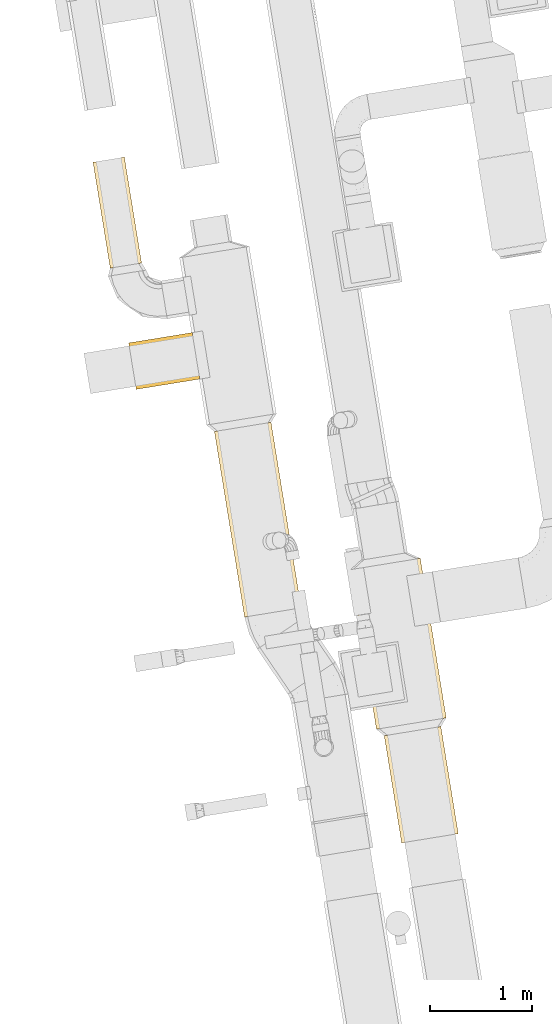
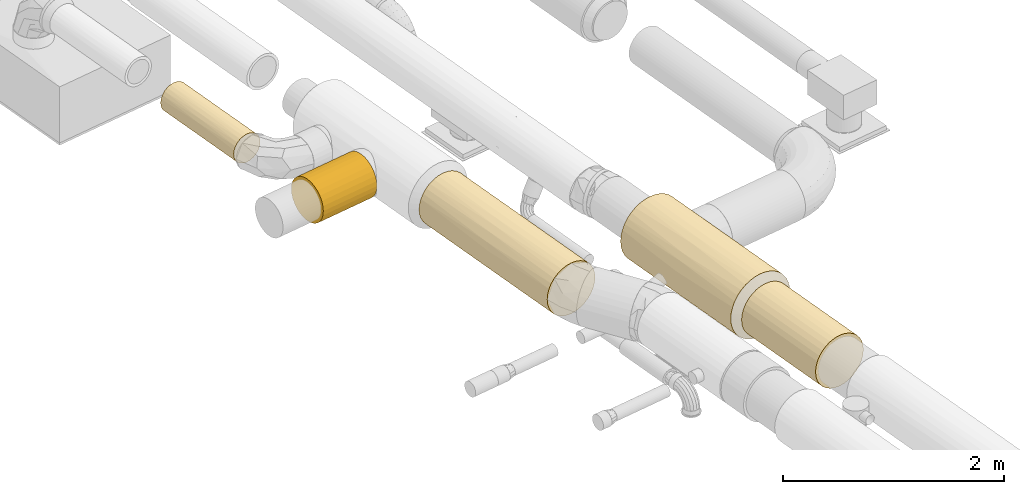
# One storey, part 4 of 39: 5 coverings.
"""IFC2X3 building model written with IfcOpenShell, lengths in millimetres."""

from ifc_helpers import new_model, entity, si_unit, converted_unit, derived_unit, direction, frame, origin, origin_with_axes, place, context, subcontext, project, spatial, faceted_brep, type_object, element, save


model = new_model("IFC2X3")

# Units and contexts
plan_context = context("Plan", 3, precision=1e-05, world=origin_with_axes())
model_context = context("Model", 3, precision=0.01, world=origin(), true_north=direction((6.12323399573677e-17, 1.0)))
body_context = subcontext(model_context, "Body", "Model", "MODEL_VIEW")
ifc_project = project(units=[converted_unit("PLANEANGLEUNIT", "DEGREE", entity("IfcPositiveLengthMeasure", 0.0174532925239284), si_unit("PLANEANGLEUNIT", "RADIAN"), dimensions=[0, 0, 0, 0, 0, 0, 0]), si_unit("AREAUNIT", "SQUARE_METRE"), si_unit("LENGTHUNIT", "METRE", prefix="MILLI"), si_unit("MASSUNIT", "GRAM", prefix="KILO"), si_unit("POWERUNIT", "WATT"), si_unit("PRESSUREUNIT", "PASCAL", prefix="KILO"), si_unit("FORCEUNIT", "NEWTON", prefix="KILO"), si_unit("ELECTRICVOLTAGEUNIT", "VOLT"), si_unit("ELECTRICCURRENTUNIT", "AMPERE"), si_unit("THERMODYNAMICTEMPERATUREUNIT", "DEGREE_CELSIUS"), si_unit("TIMEUNIT", "SECOND"), si_unit("VOLUMEUNIT", "CUBIC_METRE"), derived_unit("LINEARVELOCITYUNIT", [(si_unit("LENGTHUNIT", "METRE"), 1), (si_unit("TIMEUNIT", "SECOND"), -1)]), derived_unit("VOLUMETRICFLOWRATEUNIT", [(si_unit("VOLUMEUNIT", "CUBIC_METRE"), 1), (si_unit("TIMEUNIT", "SECOND"), -1)]), derived_unit("THERMALTRANSMITTANCEUNIT", [(si_unit("POWERUNIT", "WATT"), 1), (si_unit("THERMODYNAMICTEMPERATUREUNIT", "KELVIN"), -1), (si_unit("AREAUNIT", "SQUARE_METRE"), -1)]), derived_unit("SOUNDPRESSUREUNIT", [(si_unit("PRESSUREUNIT", "PASCAL"), 1)])], contexts=[model_context, plan_context])

# Site, building, storey
site_placement = place(None, frame((-0.00071070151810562, 0.00438415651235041, 0.0), z_axis=(0.0, 0.0, 1.0), x_axis=(-0.160236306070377, 0.987078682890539, 0.0)))
site = spatial("IfcSite", under=ifc_project, at=site_placement, Name="Default", CompositionType="ELEMENT")
building_placement = place(site_placement, origin_with_axes())
building = spatial("IfcBuilding", under=site, at=building_placement, CompositionType="ELEMENT")
storey_placement = place(building_placement, frame((0.0, 0.0, 58999.9999999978), z_axis=(0.0, 0.0, 1.0), x_axis=(1.0, 0.0, 0.0)))
storey = spatial("IfcBuildingStorey", under=building, at=storey_placement, Name="Nivå F", CompositionType="ELEMENT", Elevation=58999.9999999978)

# Coverings
covering_type_1 = type_object("IfcCoveringType", Name="Duct Insulation:MuT030", PredefinedType="INSULATION")
covering_1_placement = place(storey_placement, frame((770989.369644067, -503621.603887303, 2848.40426923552), z_axis=(0.0, 0.0, 1.0), x_axis=(1.0, 0.0, 0.0)))
element("IfcCovering", 1, at=covering_1_placement, inside=storey, type_object=covering_type_1, Name="Duct Insulation:MuT030", ObjectType="Duct Insulation:MuT030", PredefinedType="INSULATION", context=body_context, shape_type="Brep", body=[
    faceted_brep([(0.0, 48.7837807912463, 126.035606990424), (0.0, 22.9090031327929, 174.443911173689), (0.0, 6.97539372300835, 226.969982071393), (0.0, 1.59527223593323, 281.595272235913), (0.0, 6.97539372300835, 336.220562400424), (0.0, 22.9090031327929, 388.746633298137), (0.0, 48.7837807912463, 437.154937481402), (0.0, 83.6053735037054, 479.585170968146), (0.0, 126.035606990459, 514.406763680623), (0.0, 174.443911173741, 540.281541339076), (0.0, 226.969982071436, 556.215150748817), (0.0, 281.595272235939, 561.59527223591), (0.0, 336.220562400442, 556.215150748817), (0.0, 388.746633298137, 540.281541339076), (0.0, 437.154937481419, 514.406763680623), (0.0, 479.585170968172, 479.585170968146), (0.0, 514.406763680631, 437.154937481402), (0.0, 540.281541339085, 388.746633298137), (0.0, 556.215150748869, 336.220562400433), (0.0, 561.595272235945, 281.595272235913), (0.0, 556.215150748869, 226.969982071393), (0.0, 540.281541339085, 174.443911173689), (0.0, 514.406763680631, 126.035606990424), (0.0, 479.585170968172, 83.6053735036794), (0.0, 437.154937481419, 48.783780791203), (0.0, 388.746633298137, 22.9090031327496), (0.0, 336.220562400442, 6.97539372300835), (0.0, 281.595272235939, 1.5952722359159), (0.0, 226.969982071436, 6.97539372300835), (0.0, 174.443911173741, 22.9090031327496), (0.0, 126.035606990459, 48.783780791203), (0.0, 83.6053735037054, 83.6053735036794), (1060.0, 22.9090031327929, 388.746633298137), (1060.0, 6.97539372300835, 336.220562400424), (1060.0, 1.59527223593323, 281.595272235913), (1060.0, 6.97539372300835, 226.969982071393), (1060.0, 22.9090031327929, 174.443911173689), (1060.0, 48.7837807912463, 126.035606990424), (1060.0, 83.6053735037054, 83.6053735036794), (1060.0, 126.035606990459, 48.783780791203), (1060.0, 174.443911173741, 22.9090031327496), (1060.0, 226.969982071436, 6.97539372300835), (1060.0, 281.595272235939, 1.5952722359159), (1060.0, 336.220562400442, 6.97539372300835), (1060.0, 388.746633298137, 22.9090031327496), (1060.0, 437.154937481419, 48.783780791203), (1060.0, 479.585170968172, 83.6053735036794), (1060.0, 514.406763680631, 126.035606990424), (1060.0, 540.281541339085, 174.443911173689), (1060.0, 556.215150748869, 226.969982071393), (1060.0, 561.595272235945, 281.595272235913), (1060.0, 556.215150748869, 336.220562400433), (1060.0, 540.281541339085, 388.746633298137), (1060.0, 514.406763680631, 437.154937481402), (1060.0, 479.585170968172, 479.585170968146), (1060.0, 437.154937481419, 514.406763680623), (1060.0, 388.746633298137, 540.281541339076), (1060.0, 336.220562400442, 556.215150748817), (1060.0, 281.595272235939, 561.59527223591), (1060.0, 226.969982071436, 556.215150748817), (1060.0, 174.443911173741, 540.281541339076), (1060.0, 126.035606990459, 514.406763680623), (1060.0, 83.6053735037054, 479.585170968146), (1060.0, 48.7837807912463, 437.154937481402)], [[[0, 1, 2, 3, 4, 5, 6, 7, 8, 9, 10, 11, 12, 13, 14, 15, 16, 17, 18, 19, 20, 21, 22, 23, 24, 25, 26, 27, 28, 29, 30, 31]], [[32, 33, 34, 35, 36, 37, 38, 39, 40, 41, 42, 43, 44, 45, 46, 47, 48, 49, 50, 51, 52, 53, 54, 55, 56, 57, 58, 59, 60, 61, 62, 63]], [[50, 49, 20, 19]], [[49, 48, 21, 20]], [[22, 21, 48, 47]], [[47, 46, 23, 22]], [[25, 24, 45, 44]], [[26, 25, 44, 43]], [[27, 26, 43, 42]], [[46, 45, 24, 23]], [[28, 27, 42, 41]], [[29, 28, 41, 40]], [[30, 29, 40, 39]], [[39, 38, 31, 30]], [[1, 0, 37, 36]], [[2, 1, 36, 35]], [[3, 2, 35, 34]], [[38, 37, 0, 31]], [[4, 3, 34, 33]], [[5, 4, 33, 32]], [[6, 5, 32, 63]], [[63, 62, 7, 6]], [[9, 8, 61, 60]], [[10, 9, 60, 59]], [[11, 10, 59, 58]], [[62, 61, 8, 7]], [[12, 11, 58, 57]], [[13, 12, 57, 56]], [[14, 13, 56, 55]], [[55, 54, 15, 14]], [[17, 16, 53, 52]], [[18, 17, 52, 51]], [[19, 18, 51, 50]], [[54, 53, 16, 15]]]),
])
covering_2_placement = place(storey_placement, frame((772124.369644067, -503686.603887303, 2783.40426923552), z_axis=(0.0, 0.0, 1.0), x_axis=(1.0, 0.0, 0.0)))
element("IfcCovering", 2, at=covering_2_placement, inside=storey, type_object=covering_type_1, Name="Duct Insulation:MuT030", ObjectType="Duct Insulation:MuT030", PredefinedType="INSULATION", context=body_context, shape_type="Brep", body=[
    faceted_brep([(0.0, 22.4013180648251, 228.598322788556), (0.0, 6.83659744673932, 286.686650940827), (0.0, 1.59527223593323, 346.595272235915), (0.0, 6.83659744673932, 406.503893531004), (0.0, 22.4013180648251, 464.592221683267), (0.0, 47.8165079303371, 519.095272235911), (0.0, 82.3099393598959, 568.356997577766), (0.0, 124.833546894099, 610.880605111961), (0.0, 174.095272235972, 645.374036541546), (0.0, 228.598322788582, 670.789226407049), (0.0, 286.686650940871, 686.353947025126), (0.0, 346.595272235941, 691.595272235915), (0.0, 406.503893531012, 686.353947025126), (0.0, 464.592221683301, 670.789226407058), (0.0, 519.095272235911, 645.374036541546), (0.0, 568.356997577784, 610.880605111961), (0.0, 610.880605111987, 568.356997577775), (0.0, 645.374036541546, 519.09527223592), (0.0, 670.789226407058, 464.592221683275), (0.0, 686.353947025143, 406.503893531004), (0.0, 691.59527223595, 346.595272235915), (0.0, 686.353947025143, 286.686650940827), (0.0, 670.789226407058, 228.598322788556), (0.0, 645.374036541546, 174.095272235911), (0.0, 610.880605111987, 124.833546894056), (0.0, 568.356997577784, 82.3099393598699), (0.0, 519.095272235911, 47.8165079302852), (0.0, 464.592221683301, 22.4013180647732), (0.0, 406.503893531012, 6.83659744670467), (0.0, 346.595272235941, 1.5952722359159), (0.0, 286.686650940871, 6.83659744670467), (0.0, 228.598322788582, 22.4013180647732), (0.0, 174.095272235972, 47.8165079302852), (0.0, 124.833546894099, 82.3099393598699), (0.0, 82.3099393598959, 124.833546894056), (0.0, 47.8165079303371, 174.095272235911), (1579.24083049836, 47.8165079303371, 174.095272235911), (1579.24083049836, 82.3099393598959, 124.833546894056), (1579.24083049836, 124.833546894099, 82.3099393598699), (1579.24083049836, 174.095272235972, 47.8165079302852), (1579.24083049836, 228.598322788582, 22.4013180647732), (1579.24083049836, 286.686650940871, 6.83659744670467), (1579.24083049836, 346.595272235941, 1.5952722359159), (1579.24083049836, 406.503893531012, 6.83659744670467), (1579.24083049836, 464.592221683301, 22.4013180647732), (1579.24083049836, 519.095272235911, 47.8165079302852), (1579.24083049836, 568.356997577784, 82.3099393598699), (1579.24083049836, 610.880605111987, 124.833546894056), (1579.24083049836, 645.374036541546, 174.095272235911), (1579.24083049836, 670.789226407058, 228.598322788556), (1579.24083049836, 686.353947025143, 286.686650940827), (1579.24083049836, 691.59527223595, 346.595272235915), (1579.24083049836, 686.353947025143, 406.503893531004), (1579.24083049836, 670.789226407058, 464.592221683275), (1579.24083049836, 645.374036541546, 519.09527223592), (1579.24083049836, 610.880605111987, 568.356997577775), (1579.24083049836, 568.356997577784, 610.880605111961), (1579.24083049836, 519.095272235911, 645.374036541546), (1579.24083049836, 464.592221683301, 670.789226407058), (1579.24083049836, 406.503893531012, 686.353947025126), (1579.24083049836, 346.595272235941, 691.595272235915), (1579.24083049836, 286.686650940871, 686.353947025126), (1579.24083049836, 228.598322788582, 670.789226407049), (1579.24083049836, 174.095272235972, 645.374036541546), (1579.24083049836, 124.833546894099, 610.880605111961), (1579.24083049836, 82.3099393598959, 568.356997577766), (1579.24083049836, 47.8165079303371, 519.095272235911), (1579.24083049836, 22.4013180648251, 464.592221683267), (1579.24083049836, 6.83659744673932, 406.503893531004), (1579.24083049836, 1.59527223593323, 346.595272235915), (1579.24083049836, 6.83659744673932, 286.686650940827), (1579.24083049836, 22.4013180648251, 228.598322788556), (789.620412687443, 684.301371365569, 276.029057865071), (648.555342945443, 691.59527223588, 346.595272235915), (789.620415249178, 691.59527223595, 346.595272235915), (789.620415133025, 659.271458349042, 200.791971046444), (789.620415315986, 590.547111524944, 102.643432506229), (789.620415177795, 533.562804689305, 56.6502053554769), (789.620415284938, 435.887842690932, 13.3508621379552), (789.620415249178, 346.595272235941, 1.5952722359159), (930.685508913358, 346.595272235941, 1.5952722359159), (789.62041525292, 276.029059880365, 8.88917268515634), (789.620415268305, 200.791971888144, 33.9190857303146), (789.620415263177, 102.643432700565, 102.643432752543), (789.62041524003, 56.6502053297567, 159.627739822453), (789.620415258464, 13.3508621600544, 257.302701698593), (789.620415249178, 1.59527223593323, 346.595272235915), (930.685510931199, 1.59527223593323, 346.595272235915), (789.620415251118, 8.88917271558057, 417.161484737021), (789.620415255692, 33.9190857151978, 492.398572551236), (789.620415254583, 102.643432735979, 590.547111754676), (789.620415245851, 159.627739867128, 636.540339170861), (789.620415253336, 257.302701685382, 679.839682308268), (789.620415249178, 346.595272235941, 691.595272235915), (930.685511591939, 346.595272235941, 691.595272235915), (789.620415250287, 417.161484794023, 684.301371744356), (789.620415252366, 492.398572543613, 659.271458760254), (789.62041525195, 590.547111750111, 590.547111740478), (789.620415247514, 636.540339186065, 533.562804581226), (789.620415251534, 679.839682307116, 435.887842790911)], [[[0, 1, 2, 3, 4, 5, 6, 7, 8, 9, 10, 11, 12, 13, 14, 15, 16, 17, 18, 19, 20, 21, 22, 23, 24, 25, 26, 27, 28, 29, 30, 31, 32, 33, 34, 35]], [[36, 37, 38, 39, 40, 41, 42, 43, 44, 45, 46, 47, 48, 49, 50, 51, 52, 53, 54, 55, 56, 57, 58, 59, 60, 61, 62, 63, 64, 65, 66, 67, 68, 69, 70, 71]], [[72, 73, 74, 51]], [[23, 22, 75]], [[49, 48, 75]], [[73, 72, 21]], [[76, 75, 47]], [[49, 75, 72]], [[50, 72, 51]], [[21, 20, 73]], [[21, 72, 22]], [[25, 24, 76]], [[47, 75, 48]], [[24, 23, 75]], [[77, 46, 45]], [[46, 76, 47]], [[77, 76, 46]], [[44, 43, 78]], [[43, 79, 78]], [[78, 77, 44]], [[43, 42, 80, 79]], [[29, 28, 79]], [[28, 27, 78]], [[77, 25, 76]], [[27, 77, 78]], [[26, 77, 27]], [[77, 45, 44]], [[22, 72, 75]], [[78, 79, 28]], [[49, 72, 50]], [[25, 77, 26]], [[24, 75, 76]], [[80, 41, 81]], [[40, 39, 82]], [[29, 81, 30]], [[83, 82, 39, 38]], [[81, 29, 79, 80]], [[41, 80, 42]], [[30, 81, 31]], [[34, 33, 83]], [[84, 37, 36]], [[33, 32, 82, 83]], [[32, 31, 82]], [[37, 83, 38]], [[40, 82, 81]], [[84, 83, 37]], [[71, 70, 85]], [[70, 86, 85]], [[85, 84, 71]], [[70, 69, 87, 86]], [[2, 1, 86]], [[1, 0, 85]], [[84, 34, 83]], [[0, 84, 85]], [[35, 84, 0]], [[84, 36, 71]], [[31, 81, 82]], [[85, 86, 1]], [[40, 81, 41]], [[34, 84, 35]], [[87, 68, 88]], [[67, 66, 89]], [[2, 88, 3]], [[90, 89, 66, 65]], [[88, 2, 86, 87]], [[68, 87, 69]], [[3, 88, 4]], [[7, 6, 90]], [[91, 64, 63]], [[5, 89, 90, 6]], [[5, 4, 89]], [[64, 90, 65]], [[67, 89, 88]], [[91, 90, 64]], [[62, 61, 92]], [[61, 93, 92]], [[92, 91, 62]], [[61, 60, 94, 93]], [[11, 10, 93]], [[10, 9, 92]], [[91, 7, 90]], [[9, 91, 92]], [[8, 91, 9]], [[91, 63, 62]], [[4, 88, 89]], [[92, 93, 10]], [[67, 88, 68]], [[7, 91, 8]], [[94, 59, 95]], [[58, 57, 96]], [[11, 95, 12]], [[97, 96, 57, 56]], [[95, 11, 93, 94]], [[59, 94, 60]], [[12, 95, 13]], [[16, 15, 97]], [[98, 55, 54]], [[14, 96, 97, 15]], [[14, 13, 96]], [[55, 97, 56]], [[58, 96, 95]], [[98, 97, 55]], [[53, 52, 99]], [[52, 74, 99]], [[99, 98, 53]], [[52, 51, 74]], [[19, 74, 73, 20]], [[19, 18, 99]], [[98, 16, 97]], [[18, 98, 99]], [[17, 98, 18]], [[98, 54, 53]], [[13, 95, 96]], [[99, 74, 19]], [[58, 95, 59]], [[16, 98, 17]]]),
])
covering_type_2 = type_object("IfcCoveringType", Name="Duct Insulation:EI 60-30", PredefinedType="INSULATION")
covering_3_placement = place(storey_placement, frame((776987.222116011, -501461.304889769, 2973.40472776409), z_axis=(0.0, 0.0, 1.0), x_axis=(1.0, 0.0, 0.0)))
element("IfcCovering", 3, at=covering_3_placement, inside=storey, type_object=covering_type_2, Name="Duct Insulation:EI 60-30", ObjectType="Duct Insulation:EI 60-30", PredefinedType="INSULATION", context=body_context, shape_type="Brep", body=[
    faceted_brep([(0.0, 6.8767691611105, 116.478320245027), (0.0, 1.59527223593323, 156.595272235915), (0.0, 6.8767691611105, 196.712224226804), (0.0, 22.3613346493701, 234.095272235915), (0.0, 46.9937211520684, 266.196823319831), (0.0, 79.0952722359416, 290.829209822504), (0.0, 116.478320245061, 306.31377531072), (0.0, 156.59527223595, 311.595272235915), (0.0, 196.712224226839, 306.31377531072), (0.0, 234.095272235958, 290.829209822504), (0.0, 266.196823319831, 266.196823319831), (0.0, 290.82920982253, 234.095272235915), (0.0, 306.313775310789, 196.712224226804), (0.0, 311.595272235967, 156.595272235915), (0.0, 306.313775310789, 116.478320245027), (0.0, 290.82920982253, 79.0952722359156), (0.0, 266.196823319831, 46.9937211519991), (0.0, 234.095272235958, 22.3613346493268), (0.0, 196.712224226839, 6.8767691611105), (0.0, 156.59527223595, 1.5952722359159), (0.0, 116.478320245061, 6.8767691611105), (0.0, 79.0952722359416, 22.3613346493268), (0.0, 46.9937211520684, 46.9937211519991), (0.0, 22.3613346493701, 79.0952722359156), (1047.89752805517, 22.3613346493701, 79.0952722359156), (1047.89752805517, 46.9937211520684, 46.9937211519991), (1047.89752805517, 79.0952722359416, 22.3613346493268), (1047.89752805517, 116.478320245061, 6.8767691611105), (1047.89752805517, 156.59527223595, 1.5952722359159), (1047.89752805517, 196.712224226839, 6.8767691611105), (1047.89752805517, 234.095272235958, 22.3613346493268), (1047.89752805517, 266.196823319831, 46.9937211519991), (1047.89752805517, 290.82920982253, 79.0952722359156), (1047.89752805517, 306.313775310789, 116.478320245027), (1047.89752805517, 311.595272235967, 156.595272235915), (1047.89752805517, 306.313775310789, 196.712224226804), (1047.89752805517, 290.82920982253, 234.095272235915), (1047.89752805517, 266.196823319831, 266.196823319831), (1047.89752805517, 234.095272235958, 290.829209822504), (1047.89752805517, 196.712224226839, 306.31377531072), (1047.89752805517, 156.59527223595, 311.595272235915), (1047.89752805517, 116.478320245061, 306.31377531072), (1047.89752805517, 79.0952722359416, 290.829209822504), (1047.89752805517, 46.9937211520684, 266.196823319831), (1047.89752805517, 22.3613346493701, 234.095272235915), (1047.89752805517, 6.8767691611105, 196.712224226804), (1047.89752805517, 1.59527223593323, 156.595272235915), (1047.89752805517, 6.8767691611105, 116.478320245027), (523.94876346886, 279.565039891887, 62.2372506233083), (523.948766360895, 299.796599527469, 97.2793396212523), (480.939330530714, 186.37152449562, 4.48223925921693), (613.182354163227, 156.59527223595, 1.5952722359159), (434.713895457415, 156.59527223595, 1.5952722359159), (480.939342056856, 308.708304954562, 126.819018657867), (523.948763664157, 250.953293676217, 33.6255044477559), (613.183812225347, 311.595272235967, 156.595272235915), (523.948764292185, 215.911204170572, 13.3939446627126), (523.948764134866, 97.2793401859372, 13.3939447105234), (566.958197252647, 126.819019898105, 4.48223927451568), (480.939329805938, 4.48223926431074, 126.819019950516), (523.948764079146, 13.3939446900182, 97.2793402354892), (523.948763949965, 62.2372507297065, 33.6255044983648), (613.183827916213, 1.59527223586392, 156.595272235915), (434.713700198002, 1.59527223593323, 156.595272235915), (523.948763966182, 33.6255044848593, 62.2372507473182), (523.948764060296, 13.3939447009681, 215.911204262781), (566.958198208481, 4.48223926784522, 186.371524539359), (480.939329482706, 126.819019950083, 308.708305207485), (523.948764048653, 97.2793402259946, 299.796599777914), (523.948764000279, 33.6255044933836, 250.953293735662), (613.183828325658, 156.59527223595, 311.595272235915), (434.713699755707, 156.59527223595, 311.595272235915), (523.948764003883, 62.2372507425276, 279.565039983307), (523.948764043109, 215.911204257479, 299.796599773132), (566.958198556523, 186.371524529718, 308.708305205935), (480.939329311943, 308.708305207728, 186.371524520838), (523.94876403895, 299.796599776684, 215.911204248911), (523.948764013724, 250.953293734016, 279.565039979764), (523.94876401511, 279.565039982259, 250.953293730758)], [[[0, 1, 2, 3, 4, 5, 6, 7, 8, 9, 10, 11, 12, 13, 14, 15, 16, 17, 18, 19, 20, 21, 22, 23]], [[24, 25, 26, 27, 28, 29, 30, 31, 32, 33, 34, 35, 36, 37, 38, 39, 40, 41, 42, 43, 44, 45, 46, 47]], [[48, 49, 32]], [[50, 28, 51, 52, 19]], [[33, 32, 49]], [[33, 49, 53]], [[53, 49, 14]], [[53, 34, 33]], [[54, 48, 31]], [[32, 31, 48]], [[49, 48, 15]], [[55, 34, 53, 13]], [[48, 16, 15]], [[14, 49, 15]], [[56, 30, 29]], [[13, 53, 14]], [[56, 54, 30]], [[19, 18, 50]], [[16, 48, 54]], [[54, 17, 16]], [[50, 18, 56]], [[56, 17, 54]], [[31, 30, 54]], [[17, 56, 18]], [[29, 50, 56]], [[28, 50, 29]], [[57, 58, 27]], [[47, 59, 60]], [[58, 19, 52, 51, 28]], [[57, 27, 26]], [[58, 28, 27]], [[20, 57, 21]], [[19, 58, 20]], [[21, 57, 61]], [[61, 57, 26]], [[61, 22, 21]], [[59, 46, 62, 63, 1]], [[60, 24, 47]], [[59, 0, 60]], [[1, 0, 59]], [[22, 61, 64]], [[64, 23, 22]], [[46, 59, 47]], [[60, 23, 64]], [[25, 24, 64]], [[64, 61, 25]], [[23, 60, 0]], [[60, 64, 24]], [[20, 58, 57]], [[26, 25, 61]], [[65, 66, 45]], [[41, 67, 68]], [[66, 1, 63, 62, 46]], [[65, 45, 44]], [[66, 46, 45]], [[2, 65, 3]], [[1, 66, 2]], [[3, 65, 69]], [[69, 65, 44]], [[69, 4, 3]], [[67, 40, 70, 71, 7]], [[68, 42, 41]], [[67, 6, 68]], [[7, 6, 67]], [[4, 69, 72]], [[72, 5, 4]], [[40, 67, 41]], [[68, 5, 72]], [[43, 42, 72]], [[72, 69, 43]], [[5, 68, 6]], [[68, 72, 42]], [[2, 66, 65]], [[44, 43, 69]], [[73, 74, 39]], [[35, 75, 76]], [[74, 7, 71, 70, 40]], [[73, 39, 38]], [[74, 40, 39]], [[8, 73, 9]], [[7, 74, 8]], [[9, 73, 77]], [[77, 73, 38]], [[77, 10, 9]], [[13, 75, 34, 55]], [[76, 36, 35]], [[75, 12, 76]], [[13, 12, 75]], [[10, 77, 78]], [[78, 11, 10]], [[34, 75, 35]], [[76, 11, 78]], [[37, 36, 78]], [[78, 77, 37]], [[11, 76, 12]], [[76, 78, 36]], [[8, 74, 73]], [[38, 37, 77]]]),
])
covering_4_placement = place(storey_placement, frame((773412.51977767, -502460.429977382, 2848.43888074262), z_axis=(0.0, 0.0, 1.0), x_axis=(1.0, 0.0, 0.0)))
element("IfcCovering", 4, at=covering_4_placement, inside=storey, type_object=covering_type_2, Name="Duct Insulation:EI 60-30", ObjectType="Duct Insulation:EI 60-30", PredefinedType="INSULATION", context=body_context, shape_type="Brep", body=[
    faceted_brep([(0.0, 48.7837807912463, 126.035606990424), (0.0, 22.9090031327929, 174.443911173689), (0.0, 6.97539372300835, 226.969982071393), (0.0, 1.59527223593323, 281.595272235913), (0.0, 6.97539372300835, 336.220562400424), (0.0, 22.9090031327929, 388.746633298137), (0.0, 48.7837807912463, 437.154937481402), (0.0, 83.6053735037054, 479.585170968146), (0.0, 126.035606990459, 514.406763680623), (0.0, 174.443911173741, 540.281541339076), (0.0, 226.969982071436, 556.215150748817), (0.0, 281.595272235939, 561.59527223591), (0.0, 336.220562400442, 556.215150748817), (0.0, 388.746633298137, 540.281541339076), (0.0, 437.154937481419, 514.406763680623), (0.0, 479.585170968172, 479.585170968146), (0.0, 514.406763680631, 437.154937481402), (0.0, 540.281541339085, 388.746633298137), (0.0, 556.215150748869, 336.220562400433), (0.0, 561.595272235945, 281.595272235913), (0.0, 556.215150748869, 226.969982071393), (0.0, 540.281541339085, 174.443911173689), (0.0, 514.406763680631, 126.035606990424), (0.0, 479.585170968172, 83.6053735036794), (0.0, 437.154937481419, 48.783780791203), (0.0, 388.746633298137, 22.9090031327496), (0.0, 336.220562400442, 6.97539372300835), (0.0, 281.595272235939, 1.5952722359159), (0.0, 226.969982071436, 6.97539372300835), (0.0, 174.443911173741, 22.9090031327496), (0.0, 126.035606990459, 48.783780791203), (0.0, 83.6053735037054, 83.6053735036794), (1836.09069689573, 22.9090031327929, 388.746633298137), (1836.09069689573, 6.97539372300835, 336.220562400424), (1836.09069689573, 1.59527223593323, 281.595272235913), (1836.09069689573, 6.97539372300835, 226.969982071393), (1836.09069689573, 22.9090031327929, 174.443911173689), (1836.09069689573, 48.7837807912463, 126.035606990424), (1836.09069689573, 83.6053735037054, 83.6053735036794), (1836.09069689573, 126.035606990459, 48.783780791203), (1836.09069689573, 174.443911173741, 22.9090031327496), (1836.09069689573, 226.969982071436, 6.97539372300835), (1836.09069689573, 281.595272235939, 1.5952722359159), (1836.09069689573, 336.220562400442, 6.97539372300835), (1836.09069689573, 388.746633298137, 22.9090031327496), (1836.09069689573, 437.154937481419, 48.783780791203), (1836.09069689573, 479.585170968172, 83.6053735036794), (1836.09069689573, 514.406763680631, 126.035606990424), (1836.09069689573, 540.281541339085, 174.443911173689), (1836.09069689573, 556.215150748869, 226.969982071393), (1836.09069689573, 561.595272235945, 281.595272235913), (1836.09069689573, 556.215150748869, 336.220562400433), (1836.09069689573, 540.281541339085, 388.746633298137), (1836.09069689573, 514.406763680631, 437.154937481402), (1836.09069689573, 479.585170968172, 479.585170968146), (1836.09069689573, 437.154937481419, 514.406763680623), (1836.09069689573, 388.746633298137, 540.281541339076), (1836.09069689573, 336.220562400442, 556.215150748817), (1836.09069689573, 281.595272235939, 561.59527223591), (1836.09069689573, 226.969982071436, 556.215150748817), (1836.09069689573, 174.443911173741, 540.281541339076), (1836.09069689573, 126.035606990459, 514.406763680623), (1836.09069689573, 83.6053735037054, 479.585170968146), (1836.09069689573, 48.7837807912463, 437.154937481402), (918.045348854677, 528.53322578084, 149.604185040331), (838.861162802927, 553.338795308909, 214.101141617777), (667.54284408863, 561.595272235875, 281.595272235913), (838.861152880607, 349.089401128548, 9.85174873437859), (918.045348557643, 484.707359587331, 88.863645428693), (1168.54782384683, 281.595272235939, 1.5952722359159), (667.5428736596, 281.595272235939, 1.5952722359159), (918.045348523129, 413.586358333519, 34.6573181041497), (997.229543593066, 214.10114315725, 9.85174878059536), (918.045348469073, 149.604185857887, 34.6573182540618), (838.861150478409, 9.85174877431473, 214.101143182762), (918.045348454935, 88.8636456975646, 78.4831846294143), (918.045348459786, 34.6573181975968, 149.60418596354), (667.542876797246, 1.59527223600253, 281.595272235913), (1168.54782025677, 1.59527223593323, 281.595272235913), (997.229546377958, 9.85174878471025, 349.089401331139), (918.045348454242, 34.6573182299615, 413.586358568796), (838.861149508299, 214.101143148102, 553.338795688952), (918.045348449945, 78.4831846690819, 474.32689881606), (918.04534845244, 149.604185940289, 528.533226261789), (667.542877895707, 281.595272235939, 561.595272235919), (1168.54781907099, 281.595272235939, 561.595272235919), (997.229547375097, 349.089401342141, 553.338795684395), (918.045348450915, 413.586358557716, 528.533226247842), (838.861149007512, 553.338795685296, 349.089401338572), (918.045348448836, 474.326898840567, 484.707359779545), (918.045348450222, 528.533226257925, 413.586358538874)], [[[0, 1, 2, 3, 4, 5, 6, 7, 8, 9, 10, 11, 12, 13, 14, 15, 16, 17, 18, 19, 20, 21, 22, 23, 24, 25, 26, 27, 28, 29, 30, 31]], [[32, 33, 34, 35, 36, 37, 38, 39, 40, 41, 42, 43, 44, 45, 46, 47, 48, 49, 50, 51, 52, 53, 54, 55, 56, 57, 58, 59, 60, 61, 62, 63]], [[64, 21, 65]], [[19, 66, 20]], [[20, 66, 65]], [[44, 43, 67]], [[64, 48, 47]], [[64, 65, 48]], [[49, 65, 50]], [[47, 46, 68]], [[65, 21, 20]], [[67, 42, 69, 70]], [[21, 64, 22]], [[22, 64, 68]], [[25, 67, 26]], [[23, 22, 68]], [[24, 71, 25]], [[71, 45, 44]], [[26, 67, 70]], [[70, 27, 26]], [[68, 71, 24]], [[71, 68, 45]], [[24, 23, 68]], [[25, 71, 67]], [[47, 68, 64]], [[42, 67, 43]], [[50, 65, 66]], [[44, 67, 71]], [[68, 46, 45]], [[48, 65, 49]], [[41, 40, 72]], [[41, 72, 69]], [[73, 40, 39]], [[73, 72, 40]], [[41, 69, 42]], [[72, 27, 70, 69]], [[72, 29, 28]], [[36, 35, 74]], [[29, 73, 30]], [[30, 73, 75]], [[39, 38, 75]], [[31, 30, 75]], [[76, 37, 36]], [[75, 38, 37]], [[2, 74, 77]], [[34, 74, 35]], [[39, 75, 73]], [[77, 3, 2]], [[75, 76, 0]], [[76, 75, 37]], [[0, 31, 75]], [[1, 76, 74]], [[27, 72, 28]], [[74, 34, 78, 77]], [[29, 72, 73]], [[1, 74, 2]], [[36, 74, 76]], [[0, 76, 1]], [[33, 32, 79]], [[33, 79, 78]], [[80, 32, 63]], [[80, 79, 32]], [[33, 78, 34]], [[79, 3, 77, 78]], [[79, 5, 4]], [[60, 59, 81]], [[5, 80, 6]], [[6, 80, 82]], [[63, 62, 82]], [[7, 6, 82]], [[83, 61, 60]], [[82, 62, 61]], [[10, 81, 84]], [[58, 81, 59]], [[63, 82, 80]], [[84, 11, 10]], [[82, 83, 8]], [[83, 82, 61]], [[8, 7, 82]], [[9, 83, 81]], [[3, 79, 4]], [[81, 58, 85, 84]], [[5, 79, 80]], [[9, 81, 10]], [[60, 81, 83]], [[8, 83, 9]], [[57, 56, 86]], [[57, 86, 85]], [[87, 56, 55]], [[87, 86, 56]], [[57, 85, 58]], [[86, 11, 84, 85]], [[86, 13, 12]], [[52, 51, 88]], [[13, 87, 14]], [[14, 87, 89]], [[55, 54, 89]], [[15, 14, 89]], [[90, 53, 52]], [[89, 54, 53]], [[18, 88, 66]], [[50, 88, 51]], [[55, 89, 87]], [[66, 19, 18]], [[89, 90, 16]], [[90, 89, 53]], [[16, 15, 89]], [[17, 90, 88]], [[11, 86, 12]], [[50, 66, 88]], [[13, 86, 87]], [[17, 88, 18]], [[52, 88, 90]], [[16, 90, 17]]]),
])
covering_5_placement = place(storey_placement, frame((775775.626843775, -501838.834706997, 2898.40472776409), z_axis=(0.0, 0.0, 1.0), x_axis=(1.0, 0.0, 0.0)))
element("IfcCovering", 5, at=covering_5_placement, inside=storey, type_object=covering_type_2, Name="Duct Insulation:EI 60-30", ObjectType="Duct Insulation:EI 60-30", PredefinedType="INSULATION", context=body_context, shape_type="Brep", body=[
    faceted_brep([(131.802012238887, 628.19828871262, 438.818111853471), (180.415457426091, 628.19828871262, 455.828692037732), (231.595272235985, 628.19828871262, 461.595272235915), (282.775087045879, 628.19828871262, 455.828692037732), (331.388532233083, 628.19828871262, 438.818111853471), (374.997926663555, 628.19828871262, 411.416513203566), (411.416513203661, 628.19828871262, 374.997926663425), (438.818111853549, 628.19828871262, 331.388532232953), (455.828692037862, 628.19828871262, 282.77508704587), (461.595272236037, 628.19828871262, 231.595272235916), (455.828692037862, 628.19828871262, 180.415457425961), (438.818111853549, 628.19828871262, 131.802012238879), (411.416513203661, 628.19828871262, 88.1926178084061), (374.997926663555, 628.19828871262, 51.774031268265), (331.388532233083, 628.19828871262, 24.3724326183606), (282.775087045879, 628.19828871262, 7.36185243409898), (231.595272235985, 628.19828871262, 1.5952722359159), (180.415457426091, 628.19828871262, 7.36185243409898), (131.802012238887, 628.19828871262, 24.3724326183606), (88.1926178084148, 628.19828871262, 51.774031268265), (51.7740312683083, 628.19828871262, 88.1926178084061), (24.3724326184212, 628.19828871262, 131.802012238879), (7.36185243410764, 628.19828871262, 180.415457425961), (1.59527223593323, 628.19828871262, 231.595272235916), (7.36185243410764, 628.19828871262, 282.77508704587), (24.3724326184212, 628.19828871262, 331.388532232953), (51.7740312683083, 628.19828871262, 374.997926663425), (88.1926178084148, 628.19828871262, 411.416513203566), (51.7740312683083, 0.0, 374.997926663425), (24.3724326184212, 0.0, 331.388532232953), (7.36185243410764, 0.0, 282.77508704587), (1.59527223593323, 0.0, 231.595272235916), (7.36185243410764, 0.0, 180.415457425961), (24.3724326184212, 0.0, 131.802012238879), (51.7740312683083, 0.0, 88.1926178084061), (88.1926178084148, 0.0, 51.774031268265), (131.802012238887, 0.0, 24.3724326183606), (180.415457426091, 0.0, 7.36185243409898), (231.595272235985, 0.0, 1.5952722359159), (282.775087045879, 0.0, 7.36185243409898), (331.388532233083, 0.0, 24.3724326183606), (374.997926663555, 0.0, 51.774031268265), (411.416513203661, 0.0, 88.1926178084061), (438.818111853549, 0.0, 131.802012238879), (455.828692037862, 0.0, 180.415457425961), (461.595272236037, 0.0, 231.595272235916), (455.828692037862, 0.0, 282.77508704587), (438.818111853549, 0.0, 331.388532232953), (411.416513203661, 0.0, 374.997926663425), (374.997926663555, 0.0, 411.416513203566), (331.388532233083, 0.0, 438.818111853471), (282.775087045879, 0.0, 455.828692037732), (231.595272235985, 0.0, 461.595272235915), (180.415457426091, 0.0, 455.828692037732), (131.802012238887, 0.0, 438.818111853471), (88.1926178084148, 0.0, 411.416513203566)], [[[0, 1, 2, 3, 4, 5, 6, 7, 8, 9, 10, 11, 12, 13, 14, 15, 16, 17, 18, 19, 20, 21, 22, 23, 24, 25, 26, 27]], [[28, 29, 30, 31, 32, 33, 34, 35, 36, 37, 38, 39, 40, 41, 42, 43, 44, 45, 46, 47, 48, 49, 50, 51, 52, 53, 54, 55]], [[45, 44, 10, 9]], [[44, 43, 11, 10]], [[12, 11, 43, 42]], [[42, 41, 13, 12]], [[14, 13, 41, 40]], [[15, 14, 40, 39]], [[16, 15, 39, 38]], [[17, 16, 38, 37]], [[18, 17, 37, 36]], [[19, 18, 36, 35]], [[35, 34, 20, 19]], [[21, 20, 34, 33]], [[22, 21, 33, 32]], [[23, 22, 32, 31]], [[24, 23, 31, 30]], [[25, 24, 30, 29]], [[26, 25, 29, 28]], [[28, 55, 27, 26]], [[0, 27, 55, 54]], [[1, 0, 54, 53]], [[2, 1, 53, 52]], [[3, 2, 52, 51]], [[4, 3, 51, 50]], [[5, 4, 50, 49]], [[49, 48, 6, 5]], [[7, 6, 48, 47]], [[8, 7, 47, 46]], [[9, 8, 46, 45]]]),
])

save(model, "model.ifc")
